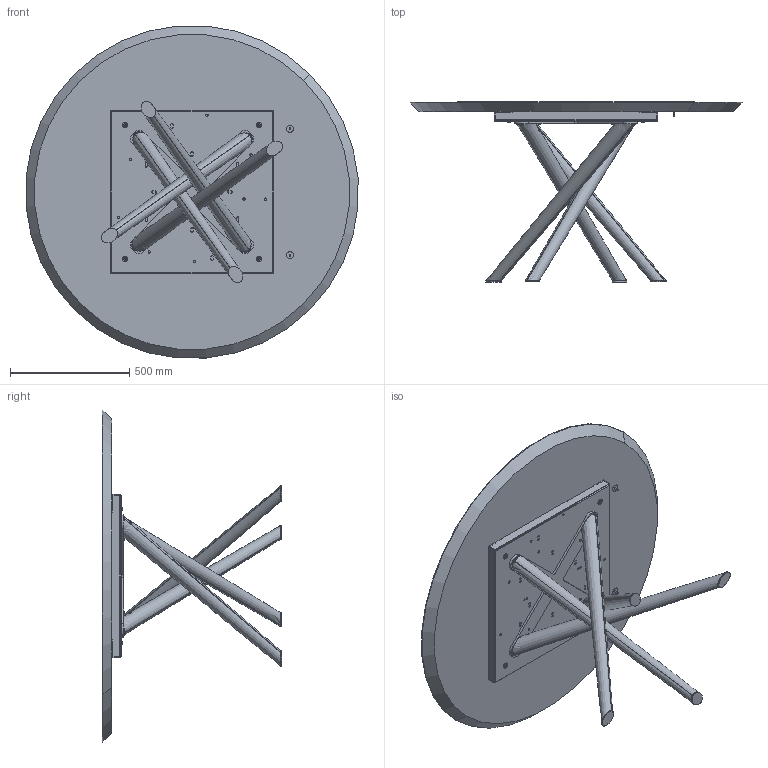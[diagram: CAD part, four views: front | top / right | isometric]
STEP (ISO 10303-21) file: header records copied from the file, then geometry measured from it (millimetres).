
FILE_DESCRIPTION (( 'STEP AP203' ), '1' );
FILE_NAME ('BA06W.STEP', '2024-08-08T06:41:44', ( '' ), ( '' ), 'SwSTEP 2.0', 'SolidWorks 2022', '' );
FILE_SCHEMA (( 'CONFIG_CONTROL_DESIGN' ));
Length unit declared in the file: millimetre
Products named in the file (15): COLLO TELAIO UNIVERSALE TTAV0801 CON FERRAMENTA_MTG TOP LEGNO-MARMO-KING; rondella M8_8X24; 434070-00-PIEDINO TPV GOMMA NERO D. 30x8max18; TTAV0801 TELAIO UNIVERSALE TONDO-PIASTRINA; TTAV0801-02-TELAIO UNIVERSALE TONDO; W1XCMXX-00-Piani Rotondi legno_D.1400; BAB000000_01-00-Croce Superiore baly; BA06W; M8xXXmm_M8x20mm; rondella M8_8X16; TTAV0801-02-TELAIO UNIVERSALE TONDO-VASSOIO; BAB000000_02-00-basamento pali conificati; Parte5^BAB000000-00-BALY BASE GREZZA; M8xXXmm_M8x55mm; BAB000000-00-BALY BASE GREZZA
Assembly tree (38 placements, depth 4):
  BA06W
    W1XCMXX-00-Piani Rotondi legno_D.1400
    BAB000000-00-BALY BASE GREZZA
      BAB000000_01-00-Croce Superiore baly
      BAB000000_02-00-basamento pali conificati
      Parte5^BAB000000-00-BALY BASE GREZZA
    COLLO TELAIO UNIVERSALE TTAV0801 CON FERRAMENTA_MTG TOP LEGNO-MARMO-KING
      TTAV0801-02-TELAIO UNIVERSALE TONDO
        TTAV0801-02-TELAIO UNIVERSALE TONDO-VASSOIO
        TTAV0801 TELAIO UNIVERSALE TONDO-PIASTRINA  x4
      rondella M8_8X24  x4
      M8xXXmm_M8x55mm  x4
    434070-00-PIEDINO TPV GOMMA NERO D. 30x8max18  x2
    M8xXXmm_M8x20mm  x8
    rondella M8_8X16  x8
Bounding box: 1394.67 x 755 x 1394.67 mm (x, y, z)
Volume: 63320561.6 mm3; surface area: 5989038.9 mm2
Topology: 43 solids, 43 shells, 1103 faces, 2645 edges, 1612 vertices
Faces by surface type: plane 446, cylinder 339, cone 158, torus 152, bspline 8
Entity records: 19283 total; most frequent: CARTESIAN_POINT 4476, DIRECTION 2712, ORIENTED_EDGE 2560, EDGE_CURVE 1280, AXIS2_PLACEMENT_3D 994, VERTEX_POINT 818, VECTOR 724, LINE 724
